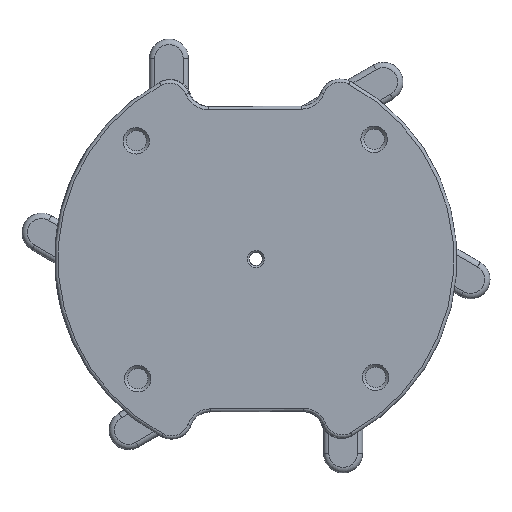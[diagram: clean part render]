
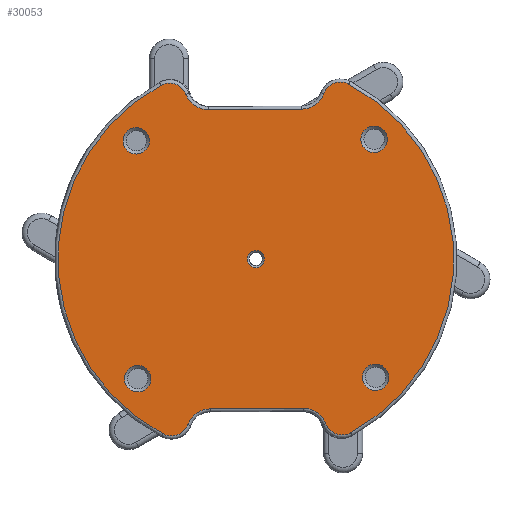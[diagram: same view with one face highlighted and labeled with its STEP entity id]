
A CAD part, front view. The second image highlights one B-rep face of the part: STEP entity #30053.
In plain terms, the highlighted planar face has unit normal (0, -1, 0).
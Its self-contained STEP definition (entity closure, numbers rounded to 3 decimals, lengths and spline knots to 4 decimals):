
#179=FACE_BOUND('',#4656,.T.);
#180=FACE_BOUND('',#4657,.T.);
#181=FACE_BOUND('',#4658,.T.);
#182=FACE_BOUND('',#4659,.T.);
#183=FACE_BOUND('',#4660,.T.);
#1498=PLANE('',#32220);
#2989=FACE_OUTER_BOUND('',#4655,.T.);
#4655=EDGE_LOOP('',(#26330,#26331,#26332,#26333,#26334,#26335,#26336,#26337,
#26338,#26339,#26340,#26341));
#4656=EDGE_LOOP('',(#26342));
#4657=EDGE_LOOP('',(#26343));
#4658=EDGE_LOOP('',(#26344));
#4659=EDGE_LOOP('',(#26345));
#4660=EDGE_LOOP('',(#26346));
#7847=LINE('',#54869,#10622);
#7848=LINE('',#54881,#10623);
#10622=VECTOR('',#39086,0.3937);
#10623=VECTOR('',#39097,0.3937);
#11118=CIRCLE('',#31401,0.128);
#11121=CIRCLE('',#31406,0.128);
#11124=CIRCLE('',#31411,0.128);
#11127=CIRCLE('',#31416,0.128);
#11130=CIRCLE('',#31421,0.0825);
#11604=CIRCLE('',#32221,0.17);
#11605=CIRCLE('',#32222,0.23);
#11606=CIRCLE('',#32223,0.23);
#11607=CIRCLE('',#32224,0.17);
#11608=CIRCLE('',#32225,1.9125);
#11609=CIRCLE('',#32226,0.17);
#11610=CIRCLE('',#32227,0.23);
#11611=CIRCLE('',#32228,0.23);
#11612=CIRCLE('',#32229,0.17);
#11613=CIRCLE('',#32230,1.9125);
#13393=VERTEX_POINT('',#46812);
#13396=VERTEX_POINT('',#46822);
#13399=VERTEX_POINT('',#46832);
#13402=VERTEX_POINT('',#46842);
#13405=VERTEX_POINT('',#46852);
#14283=VERTEX_POINT('',#54863);
#14284=VERTEX_POINT('',#54864);
#14285=VERTEX_POINT('',#54866);
#14286=VERTEX_POINT('',#54868);
#14287=VERTEX_POINT('',#54870);
#14288=VERTEX_POINT('',#54872);
#14289=VERTEX_POINT('',#54874);
#14290=VERTEX_POINT('',#54876);
#14291=VERTEX_POINT('',#54878);
#14292=VERTEX_POINT('',#54880);
#14293=VERTEX_POINT('',#54882);
#14294=VERTEX_POINT('',#54884);
#16983=EDGE_CURVE('',#13393,#13393,#11118,.T.);
#16988=EDGE_CURVE('',#13396,#13396,#11121,.T.);
#16993=EDGE_CURVE('',#13399,#13399,#11124,.T.);
#16998=EDGE_CURVE('',#13402,#13402,#11127,.T.);
#17003=EDGE_CURVE('',#13405,#13405,#11130,.T.);
#18335=EDGE_CURVE('',#14283,#14284,#11604,.T.);
#18336=EDGE_CURVE('',#14285,#14283,#11605,.T.);
#18337=EDGE_CURVE('',#14286,#14285,#7847,.T.);
#18338=EDGE_CURVE('',#14287,#14286,#11606,.T.);
#18339=EDGE_CURVE('',#14288,#14287,#11607,.T.);
#18340=EDGE_CURVE('',#14289,#14288,#11608,.T.);
#18341=EDGE_CURVE('',#14290,#14289,#11609,.T.);
#18342=EDGE_CURVE('',#14291,#14290,#11610,.T.);
#18343=EDGE_CURVE('',#14292,#14291,#7848,.T.);
#18344=EDGE_CURVE('',#14293,#14292,#11611,.T.);
#18345=EDGE_CURVE('',#14294,#14293,#11612,.T.);
#18346=EDGE_CURVE('',#14284,#14294,#11613,.T.);
#26330=ORIENTED_EDGE('',*,*,#18335,.F.);
#26331=ORIENTED_EDGE('',*,*,#18336,.F.);
#26332=ORIENTED_EDGE('',*,*,#18337,.F.);
#26333=ORIENTED_EDGE('',*,*,#18338,.F.);
#26334=ORIENTED_EDGE('',*,*,#18339,.F.);
#26335=ORIENTED_EDGE('',*,*,#18340,.F.);
#26336=ORIENTED_EDGE('',*,*,#18341,.F.);
#26337=ORIENTED_EDGE('',*,*,#18342,.F.);
#26338=ORIENTED_EDGE('',*,*,#18343,.F.);
#26339=ORIENTED_EDGE('',*,*,#18344,.F.);
#26340=ORIENTED_EDGE('',*,*,#18345,.F.);
#26341=ORIENTED_EDGE('',*,*,#18346,.F.);
#26342=ORIENTED_EDGE('',*,*,#16998,.F.);
#26343=ORIENTED_EDGE('',*,*,#16988,.F.);
#26344=ORIENTED_EDGE('',*,*,#16983,.F.);
#26345=ORIENTED_EDGE('',*,*,#16993,.F.);
#26346=ORIENTED_EDGE('',*,*,#17003,.F.);
#30053=ADVANCED_FACE('',(#2989,#179,#180,#181,#182,#183),#1498,.T.);
#31401=AXIS2_PLACEMENT_3D('',#46814,#36841,#36842);
#31406=AXIS2_PLACEMENT_3D('',#46824,#36853,#36854);
#31411=AXIS2_PLACEMENT_3D('',#46834,#36865,#36866);
#31416=AXIS2_PLACEMENT_3D('',#46844,#36877,#36878);
#31421=AXIS2_PLACEMENT_3D('',#46854,#36889,#36890);
#32220=AXIS2_PLACEMENT_3D('',#54862,#39080,#39081);
#32221=AXIS2_PLACEMENT_3D('',#54865,#39082,#39083);
#32222=AXIS2_PLACEMENT_3D('',#54867,#39084,#39085);
#32223=AXIS2_PLACEMENT_3D('',#54871,#39087,#39088);
#32224=AXIS2_PLACEMENT_3D('',#54873,#39089,#39090);
#32225=AXIS2_PLACEMENT_3D('',#54875,#39091,#39092);
#32226=AXIS2_PLACEMENT_3D('',#54877,#39093,#39094);
#32227=AXIS2_PLACEMENT_3D('',#54879,#39095,#39096);
#32228=AXIS2_PLACEMENT_3D('',#54883,#39098,#39099);
#32229=AXIS2_PLACEMENT_3D('',#54885,#39100,#39101);
#32230=AXIS2_PLACEMENT_3D('',#54886,#39102,#39103);
#36841=DIRECTION('center_axis',(0.,-1.,0.));
#36842=DIRECTION('ref_axis',(1.,0.,0.006));
#36853=DIRECTION('center_axis',(0.,-1.,0.));
#36854=DIRECTION('ref_axis',(1.,0.,0.006));
#36865=DIRECTION('center_axis',(0.,-1.,0.));
#36866=DIRECTION('ref_axis',(1.,0.,0.006));
#36877=DIRECTION('center_axis',(0.,-1.,0.));
#36878=DIRECTION('ref_axis',(1.,0.,0.006));
#36889=DIRECTION('center_axis',(0.,-1.,0.));
#36890=DIRECTION('ref_axis',(-1.,0.,-0.006));
#39080=DIRECTION('center_axis',(0.,-1.,0.));
#39081=DIRECTION('ref_axis',(-0.006,0.,
1.));
#39082=DIRECTION('center_axis',(0.,1.,0.));
#39083=DIRECTION('ref_axis',(0.358,0.,-0.934));
#39084=DIRECTION('center_axis',(0.,-1.,0.));
#39085=DIRECTION('ref_axis',(-0.575,0.,0.818));
#39086=DIRECTION('',(-1.,0.,-0.006));
#39087=DIRECTION('center_axis',(0.,-1.,0.));
#39088=DIRECTION('ref_axis',(0.565,0.,0.825));
#39089=DIRECTION('center_axis',(0.,1.,0.));
#39090=DIRECTION('ref_axis',(-0.346,0.,-0.938));
#39091=DIRECTION('center_axis',(0.,1.,0.));
#39092=DIRECTION('ref_axis',(1.,0.,0.006));
#39093=DIRECTION('center_axis',(0.,1.,0.));
#39094=DIRECTION('ref_axis',(-0.358,0.,0.934));
#39095=DIRECTION('center_axis',(0.,-1.,0.));
#39096=DIRECTION('ref_axis',(0.575,0.,-0.818));
#39097=DIRECTION('',(1.,0.,0.006));
#39098=DIRECTION('center_axis',(0.,-1.,0.));
#39099=DIRECTION('ref_axis',(-0.565,0.,-0.825));
#39100=DIRECTION('center_axis',(0.,1.,0.));
#39101=DIRECTION('ref_axis',(0.346,0.,0.938));
#39102=DIRECTION('center_axis',(0.,1.,0.));
#39103=DIRECTION('ref_axis',(-1.,0.,-0.006));
#46812=CARTESIAN_POINT('',(4.8519,-3.4432,1.7766));
#46814=CARTESIAN_POINT('Origin',(4.9799,-3.4432,1.7773));
#46822=CARTESIAN_POINT('',(7.1499,-3.4432,1.7903));
#46824=CARTESIAN_POINT('Origin',(7.2779,-3.4432,1.791));
#46832=CARTESIAN_POINT('',(7.1636,-3.4432,-0.5078));
#46834=CARTESIAN_POINT('Origin',(7.2916,-3.4432,-0.507));
#46842=CARTESIAN_POINT('',(4.8656,-3.4432,-0.5215));
#46844=CARTESIAN_POINT('Origin',(4.9936,-3.4432,-0.5207));
#46852=CARTESIAN_POINT('',(6.2182,-3.4432,0.6357));
#46854=CARTESIAN_POINT('Origin',(6.1357,-3.4432,0.6352));
#54862=CARTESIAN_POINT('Origin',(6.1357,-3.4432,0.6352));
#54863=CARTESIAN_POINT('',(5.4795,-3.4432,-0.9632));
#54864=CARTESIAN_POINT('',(5.2403,-3.4432,-1.0548));
#54865=CARTESIAN_POINT('Origin',(5.3199,-3.4432,-0.9045));
#54866=CARTESIAN_POINT('',(5.694,-3.4432,-0.8125));
#54867=CARTESIAN_POINT('Origin',(5.6954,-3.4432,-1.0425));
#54868=CARTESIAN_POINT('',(6.5947,-3.4432,-0.8071));
#54869=CARTESIAN_POINT('',(6.1444,-3.4432,-0.8098));
#54870=CARTESIAN_POINT('',(6.811,-3.4432,-0.9552));
#54871=CARTESIAN_POINT('Origin',(6.5961,-3.4432,-1.0371));
#54872=CARTESIAN_POINT('',(7.0512,-3.4432,-1.044));
#54873=CARTESIAN_POINT('Origin',(6.9699,-3.4432,-0.8947));
#54874=CARTESIAN_POINT('',(7.0312,-3.4432,2.3251));
#54875=CARTESIAN_POINT('Origin',(6.1357,-3.4432,0.6352));
#54876=CARTESIAN_POINT('',(6.792,-3.4432,2.2335));
#54877=CARTESIAN_POINT('Origin',(6.9516,-3.4432,2.1749));
#54878=CARTESIAN_POINT('',(6.5775,-3.4432,2.0828));
#54879=CARTESIAN_POINT('Origin',(6.5761,-3.4432,2.3128));
#54880=CARTESIAN_POINT('',(5.6768,-3.4432,2.0775));
#54881=CARTESIAN_POINT('',(6.1271,-3.4432,2.0801));
#54882=CARTESIAN_POINT('',(5.4605,-3.4432,2.2256));
#54883=CARTESIAN_POINT('Origin',(5.6754,-3.4432,2.3075));
#54884=CARTESIAN_POINT('',(5.2202,-3.4432,2.3143));
#54885=CARTESIAN_POINT('Origin',(5.3016,-3.4432,2.165));
#54886=CARTESIAN_POINT('Origin',(6.1357,-3.4432,0.6352));
